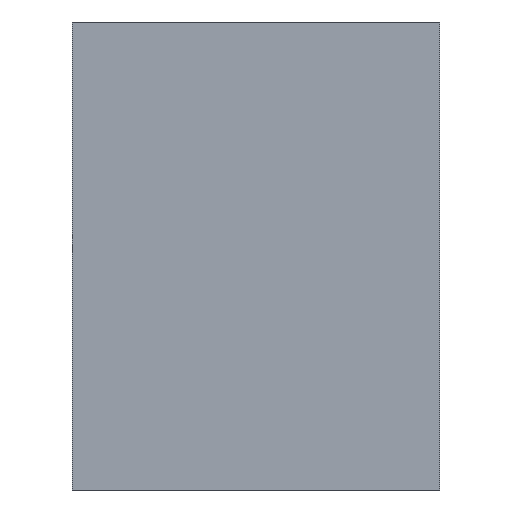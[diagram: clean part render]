
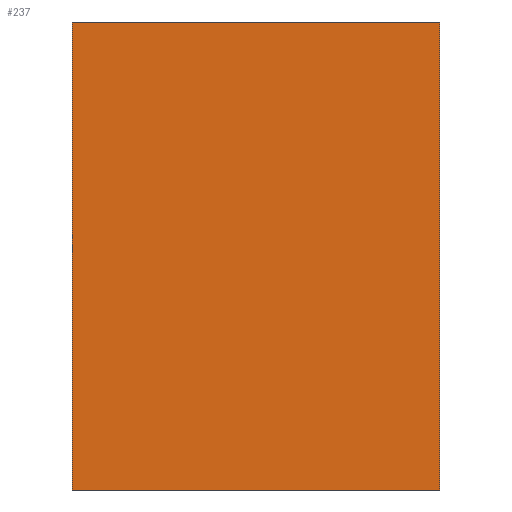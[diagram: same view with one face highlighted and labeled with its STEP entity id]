
A CAD part, front view. The second image highlights one B-rep face of the part: STEP entity #237.
In plain terms, the highlighted planar face has unit normal (0, -1, 0).
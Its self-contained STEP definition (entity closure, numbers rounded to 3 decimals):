
#21 = EDGE_CURVE('',#22,#24,#26,.T.);
#22 = VERTEX_POINT('',#23);
#23 = CARTESIAN_POINT('',(-86.,184.5,162.));
#24 = VERTEX_POINT('',#25);
#25 = CARTESIAN_POINT('',(-86.,184.5,190.));
#26 = SURFACE_CURVE('',#27,(#31,#43),.PCURVE_S1.);
#27 = LINE('',#28,#29);
#28 = CARTESIAN_POINT('',(-86.,184.5,162.));
#29 = VECTOR('',#30,1.);
#30 = DIRECTION('',(0.,0.,1.));
#31 = PCURVE('',#32,#37);
#32 = PLANE('',#33);
#33 = AXIS2_PLACEMENT_3D('',#34,#35,#36);
#34 = CARTESIAN_POINT('',(-86.,184.5,162.));
#35 = DIRECTION('',(1.,0.,0.));
#36 = DIRECTION('',(0.,0.,1.));
#37 = DEFINITIONAL_REPRESENTATION('',(#38),#42);
#38 = LINE('',#39,#40);
#39 = CARTESIAN_POINT('',(0.,0.));
#40 = VECTOR('',#41,1.);
#41 = DIRECTION('',(1.,0.));
#42 = ( GEOMETRIC_REPRESENTATION_CONTEXT(2) 
PARAMETRIC_REPRESENTATION_CONTEXT() REPRESENTATION_CONTEXT('2D SPACE',''
  ) );
#43 = PCURVE('',#44,#49);
#44 = PLANE('',#45);
#45 = AXIS2_PLACEMENT_3D('',#46,#47,#48);
#46 = CARTESIAN_POINT('',(-86.,184.5,162.));
#47 = DIRECTION('',(0.,1.,0.));
#48 = DIRECTION('',(0.,0.,1.));
#49 = DEFINITIONAL_REPRESENTATION('',(#50),#54);
#50 = LINE('',#51,#52);
#51 = CARTESIAN_POINT('',(0.,0.));
#52 = VECTOR('',#53,1.);
#53 = DIRECTION('',(1.,0.));
#54 = ( GEOMETRIC_REPRESENTATION_CONTEXT(2) 
PARAMETRIC_REPRESENTATION_CONTEXT() REPRESENTATION_CONTEXT('2D SPACE',''
  ) );
#72 = PLANE('',#73);
#73 = AXIS2_PLACEMENT_3D('',#74,#75,#76);
#74 = CARTESIAN_POINT('',(-86.,184.5,162.));
#75 = DIRECTION('',(0.,0.,1.));
#76 = DIRECTION('',(1.,0.,0.));
#126 = PLANE('',#127);
#127 = AXIS2_PLACEMENT_3D('',#128,#129,#130);
#128 = CARTESIAN_POINT('',(-86.,184.5,190.));
#129 = DIRECTION('',(0.,0.,1.));
#130 = DIRECTION('',(1.,0.,0.));
#141 = EDGE_CURVE('',#142,#144,#146,.T.);
#142 = VERTEX_POINT('',#143);
#143 = CARTESIAN_POINT('',(-64.,184.5,162.));
#144 = VERTEX_POINT('',#145);
#145 = CARTESIAN_POINT('',(-64.,184.5,190.));
#146 = SURFACE_CURVE('',#147,(#151,#163),.PCURVE_S1.);
#147 = LINE('',#148,#149);
#148 = CARTESIAN_POINT('',(-64.,184.5,162.));
#149 = VECTOR('',#150,1.);
#150 = DIRECTION('',(0.,0.,1.));
#151 = PCURVE('',#152,#157);
#152 = PLANE('',#153);
#153 = AXIS2_PLACEMENT_3D('',#154,#155,#156);
#154 = CARTESIAN_POINT('',(-64.,184.5,162.));
#155 = DIRECTION('',(1.,0.,0.));
#156 = DIRECTION('',(0.,0.,1.));
#157 = DEFINITIONAL_REPRESENTATION('',(#158),#162);
#158 = LINE('',#159,#160);
#159 = CARTESIAN_POINT('',(0.,0.));
#160 = VECTOR('',#161,1.);
#161 = DIRECTION('',(1.,0.));
#162 = ( GEOMETRIC_REPRESENTATION_CONTEXT(2) 
PARAMETRIC_REPRESENTATION_CONTEXT() REPRESENTATION_CONTEXT('2D SPACE',''
  ) );
#163 = PCURVE('',#44,#164);
#164 = DEFINITIONAL_REPRESENTATION('',(#165),#169);
#165 = LINE('',#166,#167);
#166 = CARTESIAN_POINT('',(0.,22.));
#167 = VECTOR('',#168,1.);
#168 = DIRECTION('',(1.,0.));
#169 = ( GEOMETRIC_REPRESENTATION_CONTEXT(2) 
PARAMETRIC_REPRESENTATION_CONTEXT() REPRESENTATION_CONTEXT('2D SPACE',''
  ) );
#237 = ADVANCED_FACE('',(#238),#44,.F.);
#238 = FACE_BOUND('',#239,.F.);
#239 = EDGE_LOOP('',(#240,#261,#262,#283));
#240 = ORIENTED_EDGE('',*,*,#241,.F.);
#241 = EDGE_CURVE('',#22,#142,#242,.T.);
#242 = SURFACE_CURVE('',#243,(#247,#254),.PCURVE_S1.);
#243 = LINE('',#244,#245);
#244 = CARTESIAN_POINT('',(-86.,184.5,162.));
#245 = VECTOR('',#246,1.);
#246 = DIRECTION('',(1.,0.,0.));
#247 = PCURVE('',#44,#248);
#248 = DEFINITIONAL_REPRESENTATION('',(#249),#253);
#249 = LINE('',#250,#251);
#250 = CARTESIAN_POINT('',(0.,0.));
#251 = VECTOR('',#252,1.);
#252 = DIRECTION('',(0.,1.));
#253 = ( GEOMETRIC_REPRESENTATION_CONTEXT(2) 
PARAMETRIC_REPRESENTATION_CONTEXT() REPRESENTATION_CONTEXT('2D SPACE',''
  ) );
#254 = PCURVE('',#72,#255);
#255 = DEFINITIONAL_REPRESENTATION('',(#256),#260);
#256 = LINE('',#257,#258);
#257 = CARTESIAN_POINT('',(0.,0.));
#258 = VECTOR('',#259,1.);
#259 = DIRECTION('',(1.,0.));
#260 = ( GEOMETRIC_REPRESENTATION_CONTEXT(2) 
PARAMETRIC_REPRESENTATION_CONTEXT() REPRESENTATION_CONTEXT('2D SPACE',''
  ) );
#261 = ORIENTED_EDGE('',*,*,#21,.T.);
#262 = ORIENTED_EDGE('',*,*,#263,.T.);
#263 = EDGE_CURVE('',#24,#144,#264,.T.);
#264 = SURFACE_CURVE('',#265,(#269,#276),.PCURVE_S1.);
#265 = LINE('',#266,#267);
#266 = CARTESIAN_POINT('',(-86.,184.5,190.));
#267 = VECTOR('',#268,1.);
#268 = DIRECTION('',(1.,0.,0.));
#269 = PCURVE('',#44,#270);
#270 = DEFINITIONAL_REPRESENTATION('',(#271),#275);
#271 = LINE('',#272,#273);
#272 = CARTESIAN_POINT('',(28.,0.));
#273 = VECTOR('',#274,1.);
#274 = DIRECTION('',(0.,1.));
#275 = ( GEOMETRIC_REPRESENTATION_CONTEXT(2) 
PARAMETRIC_REPRESENTATION_CONTEXT() REPRESENTATION_CONTEXT('2D SPACE',''
  ) );
#276 = PCURVE('',#126,#277);
#277 = DEFINITIONAL_REPRESENTATION('',(#278),#282);
#278 = LINE('',#279,#280);
#279 = CARTESIAN_POINT('',(0.,0.));
#280 = VECTOR('',#281,1.);
#281 = DIRECTION('',(1.,0.));
#282 = ( GEOMETRIC_REPRESENTATION_CONTEXT(2) 
PARAMETRIC_REPRESENTATION_CONTEXT() REPRESENTATION_CONTEXT('2D SPACE',''
  ) );
#283 = ORIENTED_EDGE('',*,*,#141,.F.);
